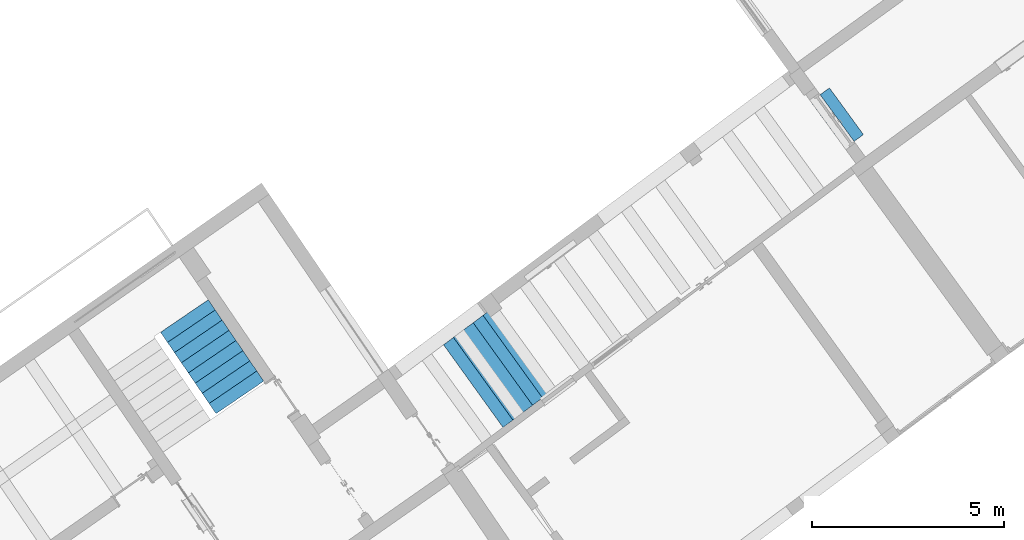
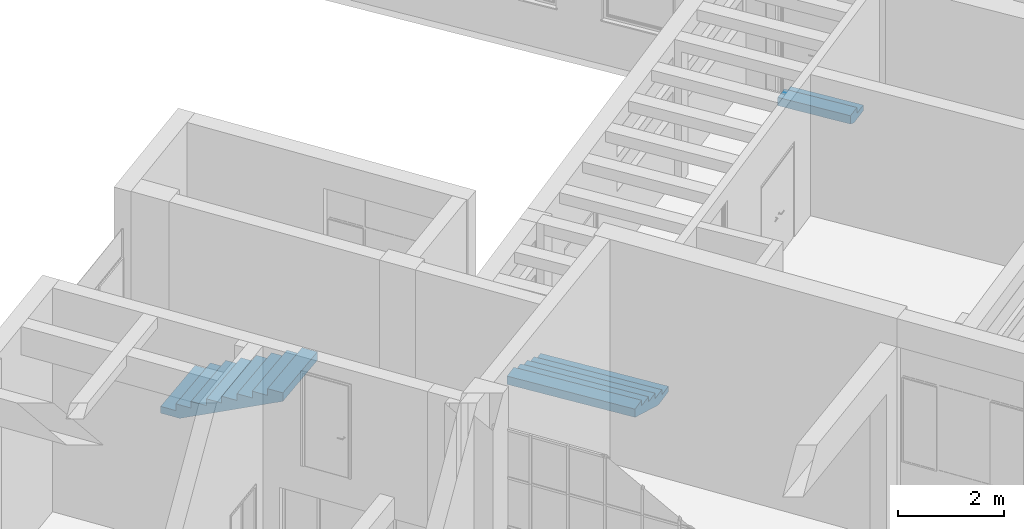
# One storey, part 153 of 157: 3 stair flights, 3 elements without a shape of their own.
"""IFC2X3 building model written with IfcOpenShell, lengths in millimetres."""

import ifcopenshell
import ifcopenshell.guid

model = None  # the IFC model being written
_history = None  # IfcOwnerHistory: only IFC2X3 demands one
_inside = {}  # id of a spatial element -> (the spatial element, [elements in it])
_under = {}  # id of a project, library or spatial element -> (it, [spatial elements below it])
_declared = {}  # id of a project -> (the project, [libraries it declares])
_typed = {}  # id of a type object -> (the type object, [elements of that type])
_made_of = {}  # id of a material, layer set ... -> (it, [elements and type objects made of it])


def new_model(schema):
    """Start an empty IFC model of exactly this schema.

    Asked for "IFC4X3", IfcOpenShell would pick the latest addendum, in which some entities
    have other attributes; the version numbers below select the first issue.
    IFC2X3 requires an IfcOwnerHistory on every rooted entity: one is made here for all.
    """
    global model, _history
    if schema == "IFC4X3":
        model = ifcopenshell.file(schema_version=(4, 3, 0, 0))
    else:
        model = ifcopenshell.file(schema=schema)
    _inside.clear()
    _under.clear()
    _declared.clear()
    _typed.clear()
    _made_of.clear()
    _history = None
    if model.schema == "IFC2X3":
        org = make("IfcOrganization", Name="unknown")
        user = make(
            "IfcPersonAndOrganization",
            ThePerson=make("IfcPerson", FamilyName="unknown"),
            TheOrganization=org,
        )
        app = make(
            "IfcApplication",
            ApplicationDeveloper=org,
            Version="unknown",
            ApplicationFullName="unknown",
            ApplicationIdentifier="unknown",
        )
        _history = make(
            "IfcOwnerHistory",
            OwningUser=user,
            OwningApplication=app,
            ChangeAction="ADDED",
            CreationDate=0,
        )
    return model


def make(cls, **values):
    """One entity of the class cls with the attributes given. An attribute that is None is left unset."""
    return model.create_entity(
        cls, **{name: value for name, value in values.items() if value is not None}
    )


def entity(cls, *values):
    """Any entity or typed value of the class cls, its attributes in the order of the schema. None: left unset."""
    e = model.create_entity(cls)
    for i, value in enumerate(values):
        if value is not None:
            e[i] = value
    return e


def rooted(cls, **values):
    """An entity with a GlobalId (a new one), such as an element, a storey or a relation."""
    return make(cls, GlobalId=ifcopenshell.guid.new(), OwnerHistory=_history, **values)


def si_unit(unit_type, name, prefix=None):
    """IfcSIUnit, for example si_unit("LENGTHUNIT", "METRE", prefix="MILLI")."""
    return make("IfcSIUnit", UnitType=unit_type, Prefix=prefix, Name=name)


def converted_unit(unit_type, name, factor, base, dimensions=None, offset=None):
    """IfcConversionBasedUnit, such as the inch: factor (a typed value) times the base unit."""
    return make(
        "IfcConversionBasedUnit"
        if offset is None
        else "IfcConversionBasedUnitWithOffset",
        ConversionOffset=offset,
        Dimensions=None
        if dimensions is None
        else entity("IfcDimensionalExponents", *dimensions),
        UnitType=unit_type,
        Name=name,
        ConversionFactor=make(
            "IfcMeasureWithUnit", ValueComponent=factor, UnitComponent=base
        ),
    )


def derived_unit(unit_type, elements):
    """IfcDerivedUnit: a product of units, each with its exponent."""
    return make(
        "IfcDerivedUnit",
        Elements=[
            make("IfcDerivedUnitElement", Unit=unit, Exponent=power)
            for unit, power in elements
        ],
        UnitType=unit_type,
    )


def assignment(units):
    """IfcUnitAssignment: the units of a project."""
    return None if units is None else make("IfcUnitAssignment", Units=units)


def point(xyz):
    """IfcCartesianPoint."""
    return None if xyz is None else make("IfcCartesianPoint", Coordinates=xyz)


def direction(xyz):
    """IfcDirection."""
    return None if xyz is None else make("IfcDirection", DirectionRatios=xyz)


def frame(location, z_axis=None, x_axis=None):
    """IfcAxis2Placement3D, a coordinate frame: its origin and axes. An axis left out is left unset."""
    return make(
        "IfcAxis2Placement3D",
        Location=point(location),
        Axis=direction(z_axis),
        RefDirection=direction(x_axis),
    )


def origin():
    """The frame at (0, 0, 0) with its axes left unset."""
    return frame((0.0, 0.0, 0.0))


def place(relative_to, where):
    """IfcLocalPlacement: puts the frame where relative to a parent placement (None: the world)."""
    return make(
        "IfcLocalPlacement", PlacementRelTo=relative_to, RelativePlacement=where
    )


def context(
    kind, dimensions, precision=None, world=None, true_north=None, identifier=None
):
    """IfcGeometricRepresentationContext, for example the 3D "Model" context."""
    return make(
        "IfcGeometricRepresentationContext",
        ContextIdentifier=identifier,
        ContextType=kind,
        CoordinateSpaceDimension=dimensions,
        Precision=precision,
        WorldCoordinateSystem=world,
        TrueNorth=true_north,
    )


def subcontext(parent, identifier, kind, view, scale=None):
    """IfcGeometricRepresentationSubContext, for example "Body" below "Model"."""
    return make(
        "IfcGeometricRepresentationSubContext",
        ContextIdentifier=identifier,
        ContextType=kind,
        ParentContext=parent,
        TargetScale=scale,
        TargetView=view,
    )


def project(units=None, contexts=None):
    """IfcProject with its units and contexts."""
    return rooted(
        "IfcProject",
        Name="project",
        RepresentationContexts=contexts,
        UnitsInContext=assignment(units),
    )


def spatial(cls, under=None, at=None, **own):
    """A site, building, storey or space (cls), placed at a placement, below another one or the project."""
    s = rooted(cls, ObjectPlacement=at, **own)
    if under is not None:
        _under.setdefault(under.id(), (under, []))[1].append(s)
    return s


def faces_of(points, faces, orient=None, outer=None):
    """IfcFace entities. A face is a list of loops; a loop is a list of indices into points, from 0.

    orient and outer hold one flag for each loop. By default every Orientation is true, the
    first loop of a face is its IfcFaceOuterBound and the others are IfcFaceBound.
    """
    made = []
    for i, loops in enumerate(faces):
        bounds = []
        for j, loop in enumerate(loops):
            is_outer = j == 0 if outer is None else outer[i][j]
            bounds.append(
                make(
                    "IfcFaceOuterBound" if is_outer else "IfcFaceBound",
                    Bound=make("IfcPolyLoop", Polygon=[points[k] for k in loop]),
                    Orientation=True if orient is None else orient[i][j],
                )
            )
        made.append(make("IfcFace", Bounds=bounds))
    return made


def faceted_brep(points, faces, orient=None, outer=None, voids=None):
    """IfcFacetedBrep: a solid bounded by flat faces; with voids (closed shells), ...WithVoids."""
    shared = [point(p) for p in points]
    hull = make("IfcClosedShell", CfsFaces=faces_of(shared, faces, orient, outer))
    if voids is None:
        return make("IfcFacetedBrep", Outer=hull)
    return make(
        "IfcFacetedBrepWithVoids",
        Outer=hull,
        Voids=[
            make(cls, CfsFaces=faces_of(shared, fs, o, b)) for cls, fs, o, b in voids
        ],
    )


def shape(context_of_items, identifier, shape_type, items):
    """IfcShapeRepresentation: the items that make up one representation, for example the "Body"."""
    return make(
        "IfcShapeRepresentation",
        ContextOfItems=context_of_items,
        RepresentationIdentifier=identifier,
        RepresentationType=shape_type,
        Items=items,
    )


def material(Name=None, Category=None):
    """IfcMaterial."""
    return make("IfcMaterial", Name=Name, Category=Category)


def material_list(materials):
    """IfcMaterialList."""
    return make("IfcMaterialList", Materials=materials)


def made_of(thing, what):
    """Note that an element or type object is made of a material, layer set ...; save() writes the relation."""
    if what is not None:
        _made_of.setdefault(what.id(), (what, []))[1].append(thing)
    return thing


def type_object(cls, material=None, **own):
    """A type object (cls), such as IfcWallType, which elements share."""
    return made_of(rooted(cls, **own), material)


def element(
    cls,
    number,
    at=None,
    inside=None,
    cuts=None,
    type_object=None,
    material=None,
    context=None,
    identifier="Body",
    shape_type=None,
    held_by="IfcProductDefinitionShape",
    body=None,
    shapes=None,
    **own,
):
    """One element of the class cls, such as IfcWall. Its Tag is "e" and its number.

    at: its placement. inside: the storey or other place that contains it. cuts: it is an
    opening in that element (IfcRelVoidsElement). A single representation is given by context,
    identifier, shape_type and body (its items); several are given by shapes. held_by: the class
    of the entity that holds the representations. save() writes the other relations.
    """
    e = rooted(cls, Tag="e%d" % number, ObjectPlacement=at, **own)
    if body is not None:
        shapes = [shape(context, identifier, shape_type, body)]
    if shapes is not None:
        e.Representation = make(held_by, Representations=shapes)
    if inside is not None:
        _inside.setdefault(inside.id(), (inside, []))[1].append(e)
    if cuts is not None:
        rooted(
            "IfcRelVoidsElement", RelatingBuildingElement=cuts, RelatedOpeningElement=e
        )
    if type_object is not None:
        _typed.setdefault(type_object.id(), (type_object, []))[1].append(e)
    return made_of(e, material)


def aggregate(whole, parts):
    """IfcRelAggregates: a whole, such as a stair, and the parts it consists of."""
    return rooted("IfcRelAggregates", RelatingObject=whole, RelatedObjects=parts)


def save(model, path):
    """Write the relations noted so far, then the file.

    IfcRelAggregates (storeys below a building ...), IfcRelContainedInSpatialStructure (elements
    in a storey), IfcRelDefinesByType, IfcRelAssociatesMaterial and IfcRelDeclares: one each for
    every whole, place, type object, material and project.
    """
    for whole, parts in _under.values():
        aggregate(whole, parts)
    for where, things in _inside.values():
        rooted(
            "IfcRelContainedInSpatialStructure",
            RelatedElements=things,
            RelatingStructure=where,
        )
    for kind, things in _typed.values():
        rooted("IfcRelDefinesByType", RelatedObjects=things, RelatingType=kind)
    for what, things in _made_of.values():
        rooted("IfcRelAssociatesMaterial", RelatedObjects=things, RelatingMaterial=what)
    for by, libraries in _declared.values():
        rooted("IfcRelDeclares", RelatingContext=by, RelatedDefinitions=libraries)
    model.write(path)


model = new_model("IFC2X3")

# Units and contexts
model_context = context("Model", 3, precision=0.01, world=origin(), true_north=direction((6.123031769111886e-17, 1.0)))
body_context = subcontext(model_context, "Body", "Model", "MODEL_VIEW")
ifc_project = project(units=[si_unit("LENGTHUNIT", "METRE", prefix="MILLI"), si_unit("AREAUNIT", "SQUARE_METRE"), si_unit("VOLUMEUNIT", "CUBIC_METRE"), converted_unit("PLANEANGLEUNIT", "DEGREE", entity("IfcRatioMeasure", 0.017453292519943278), si_unit("PLANEANGLEUNIT", "RADIAN"), dimensions=[0, 0, 0, 0, 0, 0, 0]), si_unit("MASSUNIT", "GRAM", prefix="KILO"), derived_unit("MASSDENSITYUNIT", [(si_unit("MASSUNIT", "GRAM", prefix="KILO"), 1), (si_unit("LENGTHUNIT", "METRE"), -3)]), derived_unit("MOMENTOFINERTIAUNIT", [(si_unit("LENGTHUNIT", "METRE"), 4)]), si_unit("TIMEUNIT", "SECOND"), si_unit("FREQUENCYUNIT", "HERTZ"), si_unit("THERMODYNAMICTEMPERATUREUNIT", "DEGREE_CELSIUS"), derived_unit("THERMALTRANSMITTANCEUNIT", [(si_unit("MASSUNIT", "GRAM", prefix="KILO"), 1), (si_unit("THERMODYNAMICTEMPERATUREUNIT", "KELVIN"), -1), (si_unit("TIMEUNIT", "SECOND"), -3)]), derived_unit("THERMALCONDUCTANCEUNIT", [(si_unit("MASSUNIT", "GRAM", prefix="KILO"), 1), (si_unit("LENGTHUNIT", "METRE"), 1), (si_unit("THERMODYNAMICTEMPERATUREUNIT", "KELVIN"), -1), (si_unit("TIMEUNIT", "SECOND"), -3)]), derived_unit("VOLUMETRICFLOWRATEUNIT", [(si_unit("LENGTHUNIT", "METRE"), 3), (si_unit("TIMEUNIT", "SECOND"), -1)]), derived_unit("MASSFLOWRATEUNIT", [(si_unit("MASSUNIT", "GRAM", prefix="KILO"), 1), (si_unit("TIMEUNIT", "SECOND"), -1)]), derived_unit("ROTATIONALFREQUENCYUNIT", [(si_unit("TIMEUNIT", "SECOND"), -1)]), si_unit("ELECTRICCURRENTUNIT", "AMPERE"), si_unit("ELECTRICVOLTAGEUNIT", "VOLT"), si_unit("POWERUNIT", "WATT"), converted_unit("FORCEUNIT", "KIP", entity("IfcRatioMeasure", 2.088543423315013e-05), si_unit("FORCEUNIT", "NEWTON"), dimensions=[1, 1, -2, 0, 0, 0, 0]), si_unit("ILLUMINANCEUNIT", "LUX"), si_unit("LUMINOUSFLUXUNIT", "LUMEN"), si_unit("LUMINOUSINTENSITYUNIT", "CANDELA"), derived_unit("USERDEFINED", [(si_unit("MASSUNIT", "GRAM", prefix="KILO"), -1), (si_unit("LENGTHUNIT", "METRE"), -2), (si_unit("TIMEUNIT", "SECOND"), 3), (si_unit("LUMINOUSFLUXUNIT", "LUMEN"), 1)]), derived_unit("USERDEFINED", [(si_unit("MASSUNIT", "GRAM", prefix="KILO"), 1), (si_unit("LENGTHUNIT", "METRE"), 3), (si_unit("TIMEUNIT", "SECOND"), -3), (si_unit("ELECTRICCURRENTUNIT", "AMPERE"), -2)]), derived_unit("USERDEFINED", [(si_unit("LENGTHUNIT", "METRE"), 2), (si_unit("TIMEUNIT", "SECOND"), -2)]), derived_unit("SOUNDPOWERUNIT", [(si_unit("MASSUNIT", "GRAM", prefix="KILO"), 1), (si_unit("LENGTHUNIT", "METRE"), 2), (si_unit("TIMEUNIT", "SECOND"), -3)]), derived_unit("SOUNDPRESSUREUNIT", [(si_unit("MASSUNIT", "GRAM", prefix="KILO"), 1), (si_unit("LENGTHUNIT", "METRE"), -1), (si_unit("TIMEUNIT", "SECOND"), -2)]), derived_unit("LINEARVELOCITYUNIT", [(si_unit("LENGTHUNIT", "METRE"), 1), (si_unit("TIMEUNIT", "SECOND"), -1)]), si_unit("PRESSUREUNIT", "PASCAL"), derived_unit("USERDEFINED", [(si_unit("LENGTHUNIT", "METRE"), -2), (si_unit("MASSUNIT", "GRAM", prefix="KILO"), 1), (si_unit("TIMEUNIT", "SECOND"), -2)]), derived_unit("LINEARFORCEUNIT", [(si_unit("MASSUNIT", "GRAM", prefix="KILO"), 1), (si_unit("LENGTHUNIT", "METRE"), 1), (si_unit("TIMEUNIT", "SECOND"), -2), (si_unit("LENGTHUNIT", "METRE"), -1)]), derived_unit("PLANARFORCEUNIT", [(si_unit("MASSUNIT", "GRAM", prefix="KILO"), 1), (si_unit("LENGTHUNIT", "METRE"), 1), (si_unit("TIMEUNIT", "SECOND"), -2), (si_unit("LENGTHUNIT", "METRE"), -2)]), derived_unit("SPECIFICHEATCAPACITYUNIT", [(si_unit("LENGTHUNIT", "METRE"), 2), (si_unit("TIMEUNIT", "SECOND"), -2), (si_unit("THERMODYNAMICTEMPERATUREUNIT", "KELVIN"), -1)]), derived_unit("VAPORPERMEABILITYUNIT", [(si_unit("TIMEUNIT", "SECOND"), 1), (si_unit("LENGTHUNIT", "METRE"), -1)]), derived_unit("DYNAMICVISCOSITYUNIT", [(si_unit("MASSUNIT", "GRAM", prefix="KILO"), 1), (si_unit("LENGTHUNIT", "METRE"), -1), (si_unit("TIMEUNIT", "SECOND"), -1)]), derived_unit("THERMALEXPANSIONCOEFFICIENTUNIT", [(si_unit("THERMODYNAMICTEMPERATUREUNIT", "KELVIN"), -1)])], contexts=[model_context])

# Site, building, storey
site_placement = place(None, frame((0.0, 0.0, 0.0), z_axis=(0.0, 0.0, 1.0), x_axis=(0.8191520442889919, 0.5735764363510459, 0.0)))
site = spatial("IfcSite", under=ifc_project, at=site_placement, Name="Default", CompositionType="ELEMENT")
building_placement = place(site_placement, origin())
building = spatial("IfcBuilding", under=site, at=building_placement, CompositionType="ELEMENT")
storey_placement = place(building_placement, origin())
storey = spatial("IfcBuildingStorey", under=building, at=storey_placement, Name="1.EG +0.00", CompositionType="ELEMENT", Elevation=-4.331468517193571e-12)

# Stair, stair flight
stair_1_placement = place(storey_placement, origin())
stair_1 = element("IfcStair", 1, at=stair_1_placement, inside=storey, Name="Precast Stair:Stair", ObjectType="Precast Stair:Stair_CJC", ShapeType="STRAIGHT_RUN_STAIR")
ifc_material_1 = material(Name="Concrete, Cast-in-Place gray")
ifc_material_2 = material(Name="Analytical Wall Surface_CJC")
ifc_material_list = material_list([ifc_material_1, ifc_material_2])
stair_flight_type_1 = type_object("IfcStairFlightType", Name="Monolithic Run:1mm_Tread-175mm_Depth", PredefinedType="STRAIGHT")
stair_flight_1_placement = place(stair_1_placement, frame((-208421.2378983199, 168770.96534688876, 0.0)))
stair_flight_1 = element("IfcStairFlight", 2, at=stair_flight_1_placement, type_object=stair_flight_type_1, material=ifc_material_list, Name="Precast Stair:Stair:618221 Run 1", ObjectType="Monolithic Run:1mm_Tread-175mm_Depth", NumberOfRiser=9, NumberOfTreads=8, RiserHeight=0.510352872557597, TreadLength=1.0498687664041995, context=body_context, shape_type="Brep", body=[
    faceted_brep([(1528.3927396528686, 2239.818505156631, 1555.55555555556), (1532.4662077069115, 2559.792577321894, 1555.55555555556), (32.58774443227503, 2578.886958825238, 1555.55555555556), (28.51427637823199, 2258.9128866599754, 1555.55555555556), (1528.3927396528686, 2239.818505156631, 1554.55555555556), (28.51427637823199, 2258.9128866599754, 1554.55555555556), (32.58774443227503, 2578.886958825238, 1554.55555555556), (1532.4662077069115, 2559.792577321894, 1554.55555555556)], [[[0, 1, 2, 3]], [[4, 5, 6, 7]], [[1, 0, 4, 7]], [[2, 1, 7, 6]], [[3, 2, 6, 5]], [[0, 3, 5, 4]]]),
    faceted_brep([(1524.3192715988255, 1919.8444329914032, 1711.1111111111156), (1528.3927396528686, 2239.818505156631, 1711.1111111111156), (28.51427637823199, 2258.9128866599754, 1711.1111111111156), (24.440808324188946, 1938.9388144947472, 1711.1111111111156), (1524.3192715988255, 1919.8444329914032, 1710.1111111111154), (24.440808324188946, 1938.9388144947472, 1710.1111111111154), (28.51427637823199, 2258.9128866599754, 1710.1111111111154), (1528.3927396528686, 2239.818505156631, 1710.1111111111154)], [[[0, 1, 2, 3]], [[4, 5, 6, 7]], [[1, 0, 4, 7]], [[2, 1, 7, 6]], [[3, 2, 6, 5]], [[0, 3, 5, 4]]]),
    faceted_brep([(1520.2458035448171, 1599.870360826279, 1866.666666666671), (1524.31927159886, 1919.8444329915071, 1866.666666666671), (24.4408083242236, 1938.9388144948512, 1866.666666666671), (20.36734027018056, 1618.964742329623, 1866.666666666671), (1520.2458035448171, 1599.870360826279, 1865.666666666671), (20.36734027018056, 1618.964742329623, 1865.666666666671), (24.4408083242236, 1938.9388144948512, 1865.666666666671), (1524.31927159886, 1919.8444329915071, 1865.666666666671)], [[[0, 1, 2, 3]], [[4, 5, 6, 7]], [[1, 0, 4, 7]], [[2, 1, 7, 6]], [[3, 2, 6, 5]], [[0, 3, 5, 4]]]),
    faceted_brep([(1516.172335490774, 1279.8962886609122, 2022.2222222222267), (1520.2458035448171, 1599.8703608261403, 2022.2222222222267), (20.36734027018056, 1618.9647423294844, 2022.2222222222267), (16.293872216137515, 1298.9906701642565, 2022.2222222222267), (1516.172335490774, 1279.8962886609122, 2021.2222222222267), (16.293872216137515, 1298.9906701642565, 2021.2222222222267), (20.36734027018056, 1618.9647423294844, 2021.2222222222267), (1520.2458035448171, 1599.8703608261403, 2021.2222222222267)], [[[0, 1, 2, 3]], [[4, 5, 6, 7]], [[1, 0, 4, 7]], [[2, 1, 7, 6]], [[3, 2, 6, 5]], [[0, 3, 5, 4]]]),
    faceted_brep([(1512.0988674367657, 959.9222164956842, 2177.7777777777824), (1516.1723354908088, 1279.8962886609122, 2177.7777777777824), (16.29387221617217, 1298.9906701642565, 2177.7777777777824), (12.220404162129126, 979.0165979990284, 2177.7777777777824), (1512.0988674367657, 959.9222164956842, 2176.7777777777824), (12.220404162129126, 979.0165979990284, 2176.7777777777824), (16.29387221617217, 1298.9906701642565, 2176.7777777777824), (1516.1723354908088, 1279.8962886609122, 2176.7777777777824)], [[[0, 1, 2, 3]], [[4, 5, 6, 7]], [[1, 0, 4, 7]], [[2, 1, 7, 6]], [[3, 2, 6, 5]], [[0, 3, 5, 4]]]),
    faceted_brep([(1508.0253993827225, 639.9481443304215, 2333.333333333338), (1512.0988674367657, 959.9222164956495, 2333.333333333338), (12.220404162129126, 979.0165979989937, 2333.333333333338), (8.146936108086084, 659.0425258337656, 2333.333333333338), (1508.0253993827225, 639.9481443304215, 2332.3333333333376), (8.146936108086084, 659.0425258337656, 2332.3333333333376), (12.220404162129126, 979.0165979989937, 2332.3333333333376), (1512.0988674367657, 959.9222164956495, 2332.3333333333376)], [[[0, 1, 2, 3]], [[4, 5, 6, 7]], [[1, 0, 4, 7]], [[2, 1, 7, 6]], [[3, 2, 6, 5]], [[0, 3, 5, 4]]]),
    faceted_brep([(1503.9519313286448, 319.97407216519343, 2488.8888888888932), (1508.025399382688, 639.9481443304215, 2488.8888888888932), (8.146936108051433, 659.0425258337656, 2488.8888888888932), (4.07346805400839, 339.06845366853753, 2488.8888888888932), (1503.9519313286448, 319.97407216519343, 2487.8888888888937), (4.07346805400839, 339.06845366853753, 2487.8888888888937), (8.146936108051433, 659.0425258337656, 2487.8888888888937), (1508.025399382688, 639.9481443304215, 2487.8888888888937)], [[[0, 1, 2, 3]], [[4, 5, 6, 7]], [[1, 0, 4, 7]], [[2, 1, 7, 6]], [[3, 2, 6, 5]], [[0, 3, 5, 4]]]),
    faceted_brep([(1499.8784632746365, 0.0, 2644.444444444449), (1503.9519313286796, 319.9740721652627, 2644.444444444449), (4.073468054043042, 339.0684536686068, 2644.444444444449), (0.0, 19.094381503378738, 2644.444444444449), (1499.8784632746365, 0.0, 2643.4444444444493), (0.0, 19.094381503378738, 2643.4444444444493), (4.073468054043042, 339.0684536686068, 2643.4444444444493), (1503.9519313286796, 319.9740721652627, 2643.4444444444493)], [[[0, 1, 2, 3]], [[4, 5, 6, 7]], [[1, 0, 4, 7]], [[2, 1, 7, 6]], [[3, 2, 6, 5]], [[0, 3, 5, 4]]]),
    faceted_brep([(1528.3927396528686, 2239.818505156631, 1554.55555555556), (1532.4662077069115, 2559.792577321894, 1554.55555555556), (32.58774443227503, 2578.886958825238, 1554.55555555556), (28.51427637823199, 2258.9128866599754, 1554.55555555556), (1528.3927396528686, 2239.818505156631, 1400.0), (1532.4662077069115, 2559.792577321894, 1400.0), (32.58774443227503, 2578.886958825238, 1400.0), (28.51427637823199, 2258.9128866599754, 1400.0), (1524.319271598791, 1919.8444329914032, 1710.1111111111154), (1528.3927396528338, 2239.8185051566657, 1710.1111111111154), (28.514276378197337, 2258.91288666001, 1710.1111111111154), (24.440808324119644, 1938.9388144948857, 1710.1111111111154), (1524.319271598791, 1919.8444329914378, 1515.5299959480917), (1527.3446071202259, 2157.486882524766, 1400.0), (27.46614384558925, 2176.5812640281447, 1400.0), (24.440808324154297, 1938.9388144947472, 1515.5299959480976), (1520.2458035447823, 1599.870360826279, 1865.666666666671), (1524.3192715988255, 1919.8444329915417, 1865.666666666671), (24.440808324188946, 1938.9388144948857, 1865.666666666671), (20.367340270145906, 1618.9647423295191, 1865.666666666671), (1520.2458035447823, 1599.870360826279, 1671.0855515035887), (20.367340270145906, 1618.964742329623, 1671.0855515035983), (1516.1723354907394, 1279.8962886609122, 2021.2222222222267), (1520.2458035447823, 1599.870360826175, 2021.2222222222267), (20.367340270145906, 1618.9647423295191, 2021.2222222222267), (16.293872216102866, 1298.990670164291, 2021.2222222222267), (1516.1723354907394, 1279.896288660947, 1826.6411070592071), (16.293872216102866, 1298.9906701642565, 1826.6411070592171), (1512.098867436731, 959.9222164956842, 2176.7777777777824), (1516.172335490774, 1279.896288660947, 2176.7777777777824), (16.293872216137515, 1298.990670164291, 2176.7777777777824), (12.220404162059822, 979.0165979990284, 2176.7777777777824), (1512.098867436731, 959.9222164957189, 1982.1966626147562), (12.220404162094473, 979.0165979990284, 1982.1966626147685), (1508.025399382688, 639.9481443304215, 2332.3333333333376), (1512.098867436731, 959.9222164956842, 2332.3333333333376), (12.220404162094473, 979.0165979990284, 2332.3333333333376), (8.146936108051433, 659.0425258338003, 2332.3333333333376), (1508.025399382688, 639.9481443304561, 2137.7522181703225), (8.146936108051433, 659.0425258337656, 2137.752218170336), (1503.9519313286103, 319.97407216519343, 2487.8888888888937), (1508.0253993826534, 639.9481443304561, 2487.8888888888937), (8.14693610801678, 659.0425258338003, 2487.8888888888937), (4.0734680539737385, 339.0684536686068, 2487.8888888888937), (1503.9519313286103, 319.97407216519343, 2293.307773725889), (4.0734680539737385, 339.06845366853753, 2293.3077737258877), (1499.878463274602, 0.0, 2643.4444444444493), (1503.9519313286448, 319.9740721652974, 2643.4444444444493), (4.07346805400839, 339.06845366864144, 2643.4444444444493), (0.0, 19.094381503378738, 2643.4444444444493), (1499.878463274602, 0.0, 2448.863329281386), (0.0, 19.094381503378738, 2448.8633292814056)], [[[0, 1, 2, 3]], [[1, 0, 4, 5]], [[2, 1, 5, 6]], [[3, 2, 6, 7]], [[8, 9, 10, 11]], [[4, 0, 9, 8, 12, 13]], [[0, 3, 10, 9]], [[3, 7, 14, 15, 11, 10]], [[16, 17, 18, 19]], [[17, 16, 20, 12, 8]], [[8, 11, 18, 17]], [[19, 18, 11, 15, 21]], [[22, 23, 24, 25]], [[23, 22, 26, 20, 16]], [[16, 19, 24, 23]], [[25, 24, 19, 21, 27]], [[28, 29, 30, 31]], [[29, 28, 32, 26, 22]], [[22, 25, 30, 29]], [[31, 30, 25, 27, 33]], [[34, 35, 36, 37]], [[35, 34, 38, 32, 28]], [[28, 31, 36, 35]], [[37, 36, 31, 33, 39]], [[40, 41, 42, 43]], [[41, 40, 44, 38, 34]], [[34, 37, 42, 41]], [[43, 42, 37, 39, 45]], [[46, 47, 48, 49]], [[47, 46, 50, 44, 40]], [[40, 43, 48, 47]], [[49, 48, 43, 45, 51]], [[46, 49, 51, 50]], [[5, 4, 13, 14, 7, 6]], [[14, 13, 12, 20, 26, 32, 38, 44, 50, 51, 45, 39, 33, 27, 21, 15]]]),
])
aggregate(stair_1, [stair_flight_1])

stair_2_placement = place(storey_placement, origin())
stair_2 = element("IfcStair", 3, at=stair_2_placement, inside=storey, Name="Precast Stair:Stair", ObjectType="Precast Stair:Stair_CJC_KH", ShapeType="STRAIGHT_RUN_STAIR")
stair_flight_type_2 = type_object("IfcStairFlightType", Name="Monolithic Run:1mm_Tread-175mm_Depth", PredefinedType="NOTDEFINED")
stair_flight_2_placement = place(stair_2_placement, frame((-202552.14270376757, 164219.78440794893, 0.0)))
stair_flight_2 = element("IfcStairFlight", 4, at=stair_flight_2_placement, type_object=stair_flight_type_2, material=ifc_material_list, Name="Precast Stair:Stair:621927 Run 1", ObjectType="Monolithic Run:1mm_Tread-175mm_Depth", NumberOfRiser=6, NumberOfTreads=5, RiserHeight=0.41010498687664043, TreadLength=1.0498687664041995, context=body_context, shape_type="Brep", body=[
    faceted_brep([(1313.9351242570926, 40.0497586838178, -625.0), (1633.83176125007, 50.06218702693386, -625.0), (1595.2726997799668, 2692.8448360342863, -625.0), (1279.6234341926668, 2683.6391390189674, -625.0), (1313.9351242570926, 40.04975868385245, -626.0), (1279.6234341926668, 2683.6391390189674, -626.0), (1595.2726997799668, 2692.844836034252, -626.0), (1633.83176125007, 50.062187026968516, -626.0)], [[[0, 1, 2, 3]], [[4, 5, 6, 7]], [[1, 0, 4, 7]], [[2, 1, 7, 6]], [[3, 2, 6, 5]], [[0, 3, 5, 4]]]),
    faceted_brep([(994.0381253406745, 30.037319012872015, -500.0), (1313.9351242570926, 40.04975868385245, -500.0), (1279.6234341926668, 2683.6391390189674, -500.0), (959.7175756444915, 2674.3093013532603, -500.0), (994.0381253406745, 30.03731901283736, -501.0), (959.7175756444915, 2674.3093013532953, -501.0), (1279.6234341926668, 2683.6391390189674, -501.0), (1313.9351242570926, 40.0497586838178, -501.0)], [[[0, 1, 2, 3]], [[4, 5, 6, 7]], [[1, 0, 4, 7]], [[2, 1, 7, 6]], [[3, 2, 6, 5]], [[0, 3, 5, 4]]]),
    faceted_brep([(674.1411264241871, 20.024879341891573, -375.0), (994.0381253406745, 30.03731901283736, -375.0), (959.7175756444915, 2674.3093013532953, -375.0), (639.8117170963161, 2664.9794636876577, -375.0), (674.1411264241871, 20.02487934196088, -376.0), (639.8117170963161, 2664.9794636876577, -376.0), (959.7175756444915, 2674.3093013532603, -376.0), (994.0381253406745, 30.037319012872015, -376.0)], [[[0, 1, 2, 3]], [[4, 5, 6, 7]], [[1, 0, 4, 7]], [[2, 1, 7, 6]], [[3, 2, 6, 5]], [[0, 3, 5, 4]]]),
    faceted_brep([(354.24412750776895, 10.012439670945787, -250.0), (674.1411264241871, 20.02487934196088, -250.0), (639.8117170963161, 2664.9794636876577, -250.0), (319.9058585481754, 2655.649626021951, -250.0), (354.24412750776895, 10.012439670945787, -251.0), (319.9058585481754, 2655.6496260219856, -251.0), (639.8117170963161, 2664.9794636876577, -251.0), (674.1411264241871, 20.024879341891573, -251.0)], [[[0, 1, 2, 3]], [[4, 5, 6, 7]], [[1, 0, 4, 7]], [[2, 1, 7, 6]], [[3, 2, 6, 5]], [[0, 3, 5, 4]]]),
    faceted_brep([(34.347128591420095, 0.0, -125.0), (354.24412750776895, 10.012439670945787, -125.0), (319.9058585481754, 2655.6496260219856, -125.0), (0.0, 2646.319788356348, -125.0), (34.347128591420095, 0.0, -126.0), (0.0, 2646.3197883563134, -126.0), (319.9058585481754, 2655.649626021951, -126.0), (354.24412750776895, 10.012439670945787, -126.0)], [[[0, 1, 2, 3]], [[4, 5, 6, 7]], [[1, 0, 4, 7]], [[2, 1, 7, 6]], [[3, 2, 6, 5]], [[0, 3, 5, 4]]]),
    faceted_brep([(1313.9351242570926, 40.0497586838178, -626.0), (1633.83176125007, 50.06218702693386, -626.0), (1595.2726997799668, 2692.8448360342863, -626.0), (1279.6234341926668, 2683.6391390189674, -626.0), (1313.9351242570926, 40.0497586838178, -750.0), (1633.83176125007, 50.06218702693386, -750.0), (1595.2726997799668, 2692.8448360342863, -750.0), (1279.6234341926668, 2683.6391390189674, -750.0), (994.0381253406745, 30.037319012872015, -501.0), (1313.9351242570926, 40.04975868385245, -501.0), (1279.6234341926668, 2683.6391390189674, -501.0), (959.7175756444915, 2674.30930135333, -501.0), (994.0381253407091, 30.037319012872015, -688.8770198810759), (1150.462553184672, 34.933239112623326, -750.0), (1111.8884436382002, 2678.7472616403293, -750.0), (959.7175756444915, 2674.3093013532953, -690.5409531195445), (674.1411264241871, 20.024879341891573, -376.0), (994.0381253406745, 30.03731901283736, -376.0), (959.7175756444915, 2674.3093013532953, -376.0), (639.8117170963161, 2664.9794636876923, -376.0), (674.1411264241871, 20.024879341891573, -563.8769915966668), (639.8117170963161, 2664.979463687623, -565.541354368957), (354.24412750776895, 10.012439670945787, -251.0), (674.1411264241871, 20.02487934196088, -251.0), (639.8117170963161, 2664.9794636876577, -251.0), (319.9058585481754, 2655.6496260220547, -251.0), (354.24412750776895, 10.012439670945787, -438.8769633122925), (319.9058585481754, 2655.6496260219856, -440.54175561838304), (34.347128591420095, 0.0, -126.0), (354.24412750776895, 10.012439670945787, -126.0), (319.9058585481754, 2655.6496260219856, -126.0), (0.0, 2646.319788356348, -126.0), (34.347128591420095, 0.0, -313.8769350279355), (0.0, 2646.319788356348, -315.54215686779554)], [[[0, 1, 2, 3]], [[1, 0, 4, 5]], [[2, 1, 5, 6]], [[3, 2, 6, 7]], [[8, 9, 10, 11]], [[4, 0, 9, 8, 12, 13]], [[0, 3, 10, 9]], [[3, 7, 14, 15, 11, 10]], [[16, 17, 18, 19]], [[17, 16, 20, 12, 8]], [[8, 11, 18, 17]], [[19, 18, 11, 15, 21]], [[22, 23, 24, 25]], [[23, 22, 26, 20, 16]], [[16, 19, 24, 23]], [[25, 24, 19, 21, 27]], [[28, 29, 30, 31]], [[29, 28, 32, 26, 22]], [[22, 25, 30, 29]], [[31, 30, 25, 27, 33]], [[28, 31, 33, 32]], [[5, 4, 13, 14, 7, 6]], [[14, 13, 12, 20, 26, 32, 33, 27, 21, 15]]]),
])
aggregate(stair_2, [stair_flight_2])

stair_3_placement = place(storey_placement, origin())
stair_3 = element("IfcStair", 5, at=stair_3_placement, inside=storey, Name="Precast Stair:Stair", ObjectType="Precast Stair:Stair_CJC_KH", ShapeType="STRAIGHT_RUN_STAIR")
stair_flight_3_placement = place(stair_3_placement, frame((-191110.8412342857, 165071.09822777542, 0.0)))
stair_flight_3 = element("IfcStairFlight", 6, at=stair_flight_3_placement, type_object=stair_flight_type_2, material=ifc_material_list, Name="Precast Stair:Stair:621974 Run 1", ObjectType="Monolithic Run:1mm_Tread-175mm_Depth", NumberOfRiser=3, NumberOfTreads=2, RiserHeight=0.4374453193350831, TreadLength=1.0498687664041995, context=body_context, shape_type="Brep", body=[
    faceted_brep([(329.2106143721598, 5.561951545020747, -1016.6666666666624), (629.1590510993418, 11.123903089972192, -1016.6666666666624), (601.349293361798, 1510.8660867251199, -1016.6666666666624), (301.40085663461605, 1505.304135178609, -1016.6666666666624), (329.2106143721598, 5.561951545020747, -1017.6666666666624), (301.40085663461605, 1505.304135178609, -1017.6666666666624), (601.349293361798, 1510.8660867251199, -1017.6666666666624), (629.1590510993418, 11.123903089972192, -1017.6666666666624)], [[[0, 1, 2, 3]], [[4, 5, 6, 7]], [[1, 0, 4, 7]], [[2, 1, 7, 6]], [[3, 2, 6, 5]], [[0, 3, 5, 4]]]),
    faceted_brep([(29.26217764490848, 0.0, -883.333333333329), (329.2106143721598, 5.561951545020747, -883.333333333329), (301.40085663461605, 1505.304135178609, -883.333333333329), (0.0, 1499.7152513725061, -883.333333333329), (29.26217764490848, 0.0, -884.333333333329), (0.0, 1499.715251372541, -884.333333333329), (301.40085663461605, 1505.304135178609, -884.333333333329), (329.2106143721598, 5.561951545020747, -884.333333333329)], [[[0, 1, 2, 3]], [[4, 5, 6, 7]], [[1, 0, 4, 7]], [[2, 1, 7, 6]], [[3, 2, 6, 5]], [[0, 3, 5, 4]]]),
    faceted_brep([(329.2106143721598, 5.561951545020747, -1017.6666666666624), (629.1590510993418, 11.123903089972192, -1017.6666666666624), (601.349293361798, 1510.8660867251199, -1017.6666666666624), (301.40085663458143, 1505.304135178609, -1017.6666666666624), (329.2106143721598, 5.561951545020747, -1150.0), (629.1590510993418, 11.123903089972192, -1150.0), (601.349293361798, 1510.8660867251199, -1150.0), (301.40085663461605, 1505.304135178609, -1150.0), (29.26217764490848, 0.0, -884.333333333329), (329.2106143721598, 5.561951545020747, -884.333333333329), (301.40085663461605, 1505.304135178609, -884.333333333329), (0.0, 1499.7152513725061, -884.333333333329), (29.26217764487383, 0.0, -1075.8389017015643), (196.09596889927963, 3.0936032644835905, -1150.0), (168.28621116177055, 1502.8357868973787, -1150.0), (0.0, 1499.7152513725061, -1075.1932707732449)], [[[0, 1, 2, 3]], [[1, 0, 4, 5]], [[2, 1, 5, 6]], [[3, 2, 6, 7]], [[8, 9, 10, 11]], [[4, 0, 9, 8, 12, 13]], [[0, 3, 10, 9]], [[3, 7, 14, 15, 11, 10]], [[8, 11, 15, 12]], [[5, 4, 13, 14, 7, 6]], [[14, 13, 12, 15]]]),
])
aggregate(stair_3, [stair_flight_3])

save(model, "model.ifc")
